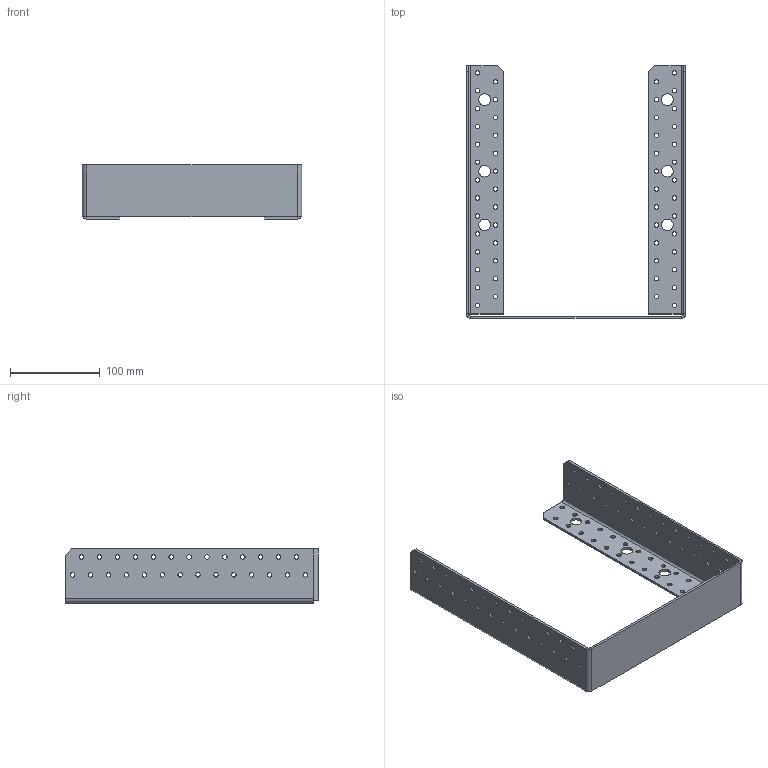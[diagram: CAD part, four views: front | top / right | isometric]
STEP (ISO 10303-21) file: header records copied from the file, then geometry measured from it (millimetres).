
FILE_DESCRIPTION (( 'STEP AP203' ), '1' );
FILE_NAME ('40533IKO.STEP', '2021-04-16T10:13:18', ( '' ), ( '' ), 'SwSTEP 2.0', 'SolidWorks 2013', '' );
FILE_SCHEMA (( 'CONFIG_CONTROL_DESIGN' ));
Length unit declared in the file: millimetre
Products named in the file (1): 40533IKO
Bounding box: 245 x 282.5 x 60.5 mm (x, y, z)
Volume: 164068.9 mm3; surface area: 140767.8 mm2
Topology: 1 solids, 1 shells, 272 faces, 780 edges, 510 vertices
Faces by surface type: cylinder 236, plane 36
Entity records: 9671 total; most frequent: DIRECTION 1800, CARTESIAN_POINT 1563, ORIENTED_EDGE 1560, EDGE_CURVE 780, AXIS2_PLACEMENT_3D 747, VERTEX_POINT 510, EDGE_LOOP 500, CIRCLE 474
